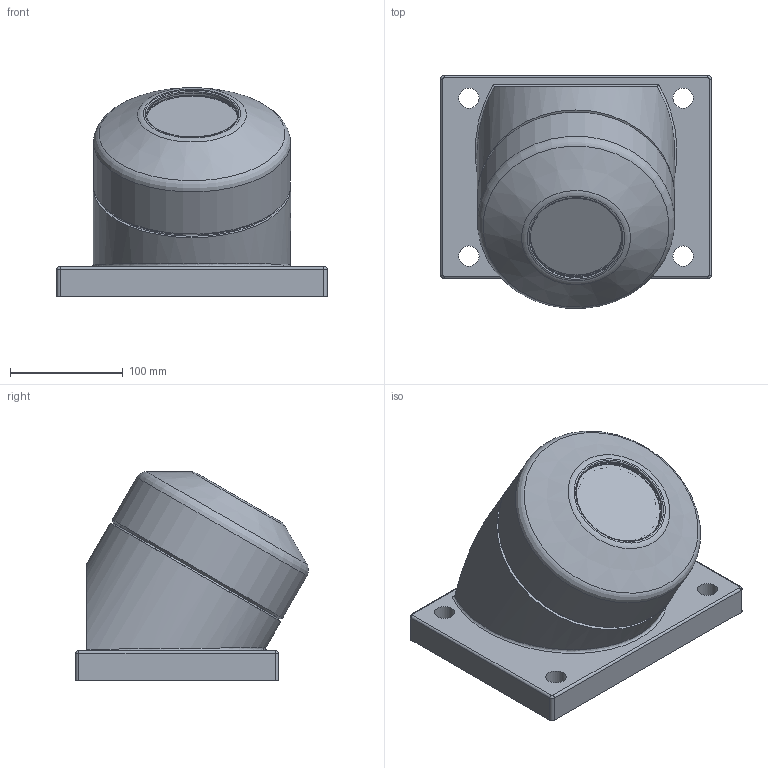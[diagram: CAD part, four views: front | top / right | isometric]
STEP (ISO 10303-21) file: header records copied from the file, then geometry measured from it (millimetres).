
FILE_DESCRIPTION(/* description */ (''),/* implementation_level */ '2;1');
FILE_NAME(/* name */ 'Z:\34-Tei\01-web 3Dデータ\SW車輪\\X2\514330C730FC30BF\X0\\SW-185-BS-I.stp',/* time_stamp */ '2015-03-18T13:29:46+09:00',/* author */ ('yamaki'),/* organization */ (''),/* preprocessor_version */ 'ST-DEVELOPER v15.6',/* originating_system */ 'Autodesk Inventor 2015',/* authorisation */ '');
FILE_SCHEMA (('AUTOMOTIVE_DESIGN { 1 0 10303 214 3 1 1 }'));
Length unit declared in the file: centimetre
Products named in the file (1): SW-185-BS-I
Bounding box: 240 x 206.53 x 184.92 mm (x, y, z)
Volume: 3562966 mm3; surface area: 314341.6 mm2
Topology: 1 solids, 4 shells, 110 faces, 222 edges, 143 vertices
Faces by surface type: cylinder 41, plane 37, cone 14, torus 11, bspline 7
Full cylindrical faces by diameter (mm): 5 x1, 8 x1, 18 x4, 30 x1, 32 x2, 40 x2, 42 x2, 50 x1, 52 x1, 65 x3, 75 x2, 75.1 x1, 81 x1, 81.4 x2, 83.5 x1, 130 x1, 140 x1, 140.1 x1, 145 x1, 175 x2
Entity records: 3102 total; most frequent: CARTESIAN_POINT 896, DIRECTION 456, ORIENTED_EDGE 298, AXIS2_PLACEMENT_3D 217, EDGE_LOOP 204, EDGE_CURVE 149, VERTEX_POINT 127, STYLED_ITEM 111
